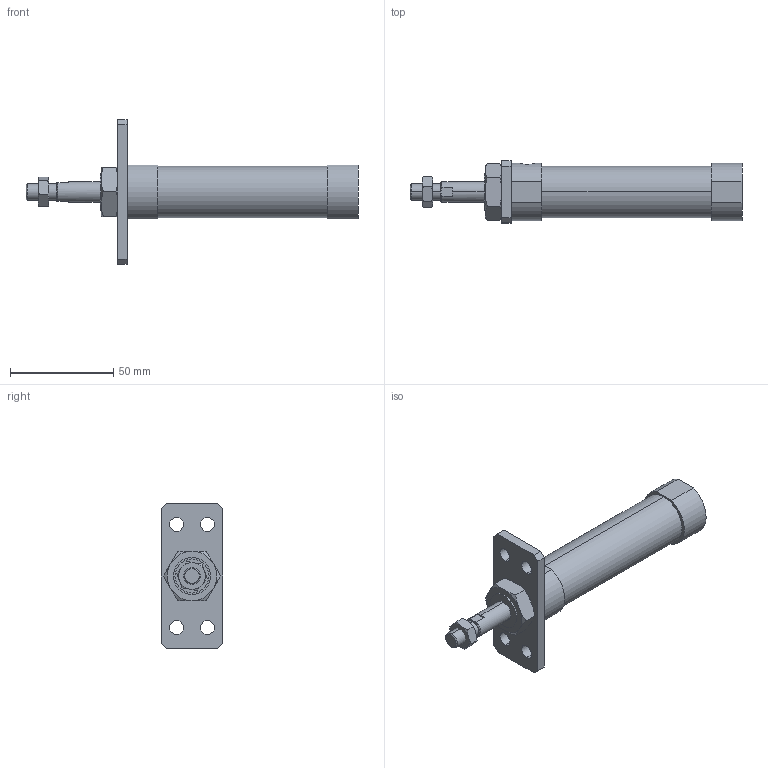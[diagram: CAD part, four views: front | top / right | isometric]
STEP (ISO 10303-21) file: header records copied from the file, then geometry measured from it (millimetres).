
FILE_DESCRIPTION (( 'STEP AP203' ), '1' );
FILE_NAME ('JGND0-20-15-A.STEP', '2016-08-04T02:02:17', ( '' ), ( '' ), 'SwSTEP 2.0', 'SolidWorks 2014', '' );
FILE_SCHEMA (( 'CONFIG_CONTROL_DESIGN' ));
Length unit declared in the file: millimetre
Products named in the file (5): J#2-20-A; J#0-20-15(P); JGND0-20-15-A
Assembly tree (4 placements, depth 2):
  JGND0-20-15-A
    J#0-20-15(P)
    (unnamed)
    (unnamed)
    J#2-20-A
Bounding box: 161 x 30 x 70 mm (x, y, z)
Volume: 73541.4 mm3; surface area: 19601.8 mm2
Topology: 4 solids, 4 shells, 101 faces, 230 edges, 144 vertices
Faces by surface type: plane 43, cylinder 30, torus 24, cone 4
Entity records: 3663 total; most frequent: CARTESIAN_POINT 872, DIRECTION 482, ORIENTED_EDGE 460, EDGE_CURVE 230, AXIS2_PLACEMENT_3D 198, VERTEX_POINT 144, EDGE_LOOP 122, FACE_OUTER_BOUND 101
